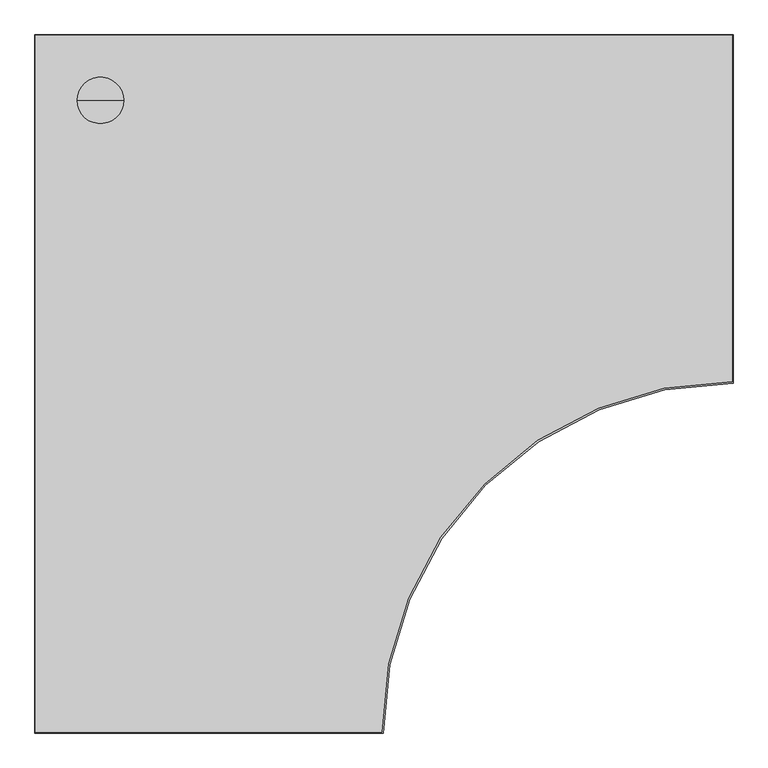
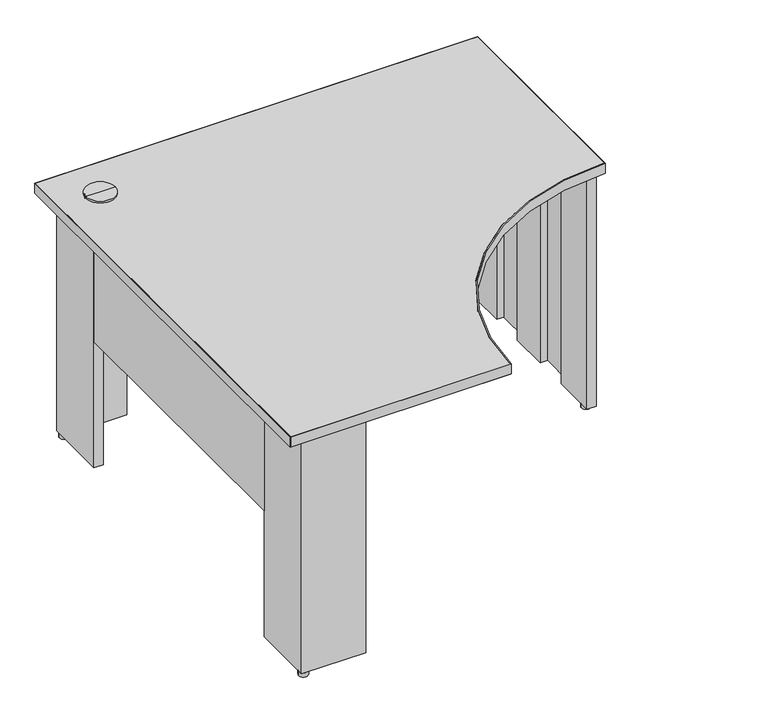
"""IFC4 building model written with IfcOpenShell, lengths in millimetres: furniture geometry, Steelcase - Kick Freestanding - Desk - Curve Corner - Partial Height Modesty Panel : 24D x 48W - Right Full End Panel/Left Clear Access Support - LPL."""

import ifcopenshell
import ifcopenshell.guid

model = None  # the IFC model being written
_history = None  # IfcOwnerHistory: only IFC2X3 demands one
_inside = {}  # id of a spatial element -> (the spatial element, [elements in it])
_under = {}  # id of a project, library or spatial element -> (it, [spatial elements below it])
_declared = {}  # id of a project -> (the project, [libraries it declares])
_typed = {}  # id of a type object -> (the type object, [elements of that type])
_made_of = {}  # id of a material, layer set ... -> (it, [elements and type objects made of it])


def new_model(schema):
    """Start an empty IFC model of exactly this schema.

    Asked for "IFC4X3", IfcOpenShell would pick the latest addendum, in which some entities
    have other attributes; the version numbers below select the first issue.
    IFC2X3 requires an IfcOwnerHistory on every rooted entity: one is made here for all.
    """
    global model, _history
    if schema == "IFC4X3":
        model = ifcopenshell.file(schema_version=(4, 3, 0, 0))
    else:
        model = ifcopenshell.file(schema=schema)
    _inside.clear()
    _under.clear()
    _declared.clear()
    _typed.clear()
    _made_of.clear()
    _history = None
    if model.schema == "IFC2X3":
        org = make("IfcOrganization", Name="unknown")
        user = make(
            "IfcPersonAndOrganization",
            ThePerson=make("IfcPerson", FamilyName="unknown"),
            TheOrganization=org,
        )
        app = make(
            "IfcApplication",
            ApplicationDeveloper=org,
            Version="unknown",
            ApplicationFullName="unknown",
            ApplicationIdentifier="unknown",
        )
        _history = make(
            "IfcOwnerHistory",
            OwningUser=user,
            OwningApplication=app,
            ChangeAction="ADDED",
            CreationDate=0,
        )
    return model


def make(cls, **values):
    """One entity of the class cls with the attributes given. An attribute that is None is left unset."""
    return model.create_entity(
        cls, **{name: value for name, value in values.items() if value is not None}
    )


def rooted(cls, **values):
    """An entity with a GlobalId (a new one), such as an element, a storey or a relation."""
    return make(cls, GlobalId=ifcopenshell.guid.new(), OwnerHistory=_history, **values)


def si_unit(unit_type, name, prefix=None):
    """IfcSIUnit, for example si_unit("LENGTHUNIT", "METRE", prefix="MILLI")."""
    return make("IfcSIUnit", UnitType=unit_type, Prefix=prefix, Name=name)


def assignment(units):
    """IfcUnitAssignment: the units of a project."""
    return None if units is None else make("IfcUnitAssignment", Units=units)


def point(xyz):
    """IfcCartesianPoint."""
    return None if xyz is None else make("IfcCartesianPoint", Coordinates=xyz)


def direction(xyz):
    """IfcDirection."""
    return None if xyz is None else make("IfcDirection", DirectionRatios=xyz)


def frame(location, z_axis=None, x_axis=None):
    """IfcAxis2Placement3D, a coordinate frame: its origin and axes. An axis left out is left unset."""
    return make(
        "IfcAxis2Placement3D",
        Location=point(location),
        Axis=direction(z_axis),
        RefDirection=direction(x_axis),
    )


def frame_2d(location, x_axis=None):
    """IfcAxis2Placement2D, a coordinate frame in the plane: its origin and x axis."""
    return make(
        "IfcAxis2Placement2D", Location=point(location), RefDirection=direction(x_axis)
    )


def origin():
    """The frame at (0, 0, 0) with its axes left unset."""
    return frame((0.0, 0.0, 0.0))


def origin_with_axes():
    """The frame at (0, 0, 0) with the z axis (0, 0, 1) and the x axis (1, 0, 0) written out."""
    return frame((0.0, 0.0, 0.0), z_axis=(0.0, 0.0, 1.0), x_axis=(1.0, 0.0, 0.0))


def place(relative_to, where):
    """IfcLocalPlacement: puts the frame where relative to a parent placement (None: the world)."""
    return make(
        "IfcLocalPlacement", PlacementRelTo=relative_to, RelativePlacement=where
    )


def context(
    kind, dimensions, precision=None, world=None, true_north=None, identifier=None
):
    """IfcGeometricRepresentationContext, for example the 3D "Model" context."""
    return make(
        "IfcGeometricRepresentationContext",
        ContextIdentifier=identifier,
        ContextType=kind,
        CoordinateSpaceDimension=dimensions,
        Precision=precision,
        WorldCoordinateSystem=world,
        TrueNorth=true_north,
    )


def project(units=None, contexts=None):
    """IfcProject with its units and contexts."""
    return rooted(
        "IfcProject",
        Name="project",
        RepresentationContexts=contexts,
        UnitsInContext=assignment(units),
    )


def spatial(cls, under=None, at=None, **own):
    """A site, building, storey or space (cls), placed at a placement, below another one or the project."""
    s = rooted(cls, ObjectPlacement=at, **own)
    if under is not None:
        _under.setdefault(under.id(), (under, []))[1].append(s)
    return s


def polyline(points):
    """IfcPolyline through the points."""
    return make("IfcPolyline", Points=[point(p) for p in points])


def circle_curve(where, radius):
    """IfcCircle in the frame where."""
    return make("IfcCircle", Position=where, Radius=radius)


def trimmed(basis, trim1, trim2, sense, master):
    """IfcTrimmedCurve: the piece of a basis curve between two trims."""
    return make(
        "IfcTrimmedCurve",
        BasisCurve=basis,
        Trim1=trim1,
        Trim2=trim2,
        SenseAgreement=sense,
        MasterRepresentation=master,
    )


def segment(curve, same_sense, transition):
    """IfcCompositeCurveSegment."""
    return make(
        "IfcCompositeCurveSegment",
        Transition=transition,
        SameSense=same_sense,
        ParentCurve=curve,
    )


def composite_curve(segments, self_intersect=None):
    """IfcCompositeCurve: segments joined end to end."""
    return make("IfcCompositeCurve", Segments=segments, SelfIntersect=self_intersect)


def outline(outer, holes=None, kind="AREA"):
    """IfcArbitraryClosedProfileDef: a profile drawn as a closed curve; with holes, ...WithVoids."""
    if holes is None:
        return make("IfcArbitraryClosedProfileDef", ProfileType=kind, OuterCurve=outer)
    return make(
        "IfcArbitraryProfileDefWithVoids",
        ProfileType=kind,
        OuterCurve=outer,
        InnerCurves=holes,
    )


def extrude(swept, where, along, depth):
    """IfcExtrudedAreaSolid: the profile swept, set in the frame where, extruded along a direction by depth."""
    return make(
        "IfcExtrudedAreaSolid",
        SweptArea=swept,
        Position=where,
        ExtrudedDirection=direction(along),
        Depth=depth,
    )


def shape(context_of_items, identifier, shape_type, items):
    """IfcShapeRepresentation: the items that make up one representation, for example the "Body"."""
    return make(
        "IfcShapeRepresentation",
        ContextOfItems=context_of_items,
        RepresentationIdentifier=identifier,
        RepresentationType=shape_type,
        Items=items,
    )


def source(mapping_origin, context_of_items, identifier, shape_type, items):
    """IfcRepresentationMap: a shape defined once, which mapped items show again and again."""
    return make(
        "IfcRepresentationMap",
        MappingOrigin=mapping_origin,
        MappedRepresentation=shape(context_of_items, identifier, shape_type, items),
    )


def transform(
    local_origin,
    x_axis=None,
    y_axis=None,
    z_axis=None,
    scale=None,
    scale2=None,
    scale3=None,
    uniform=True,
):
    """IfcCartesianTransformationOperator3D, or its non-uniform kind. x_axis, y_axis, z_axis: its Axis1, 2, 3."""
    if uniform:
        return make(
            "IfcCartesianTransformationOperator3D",
            Axis1=direction(x_axis),
            Axis2=direction(y_axis),
            LocalOrigin=point(local_origin),
            Scale=scale,
            Axis3=direction(z_axis),
        )
    return make(
        "IfcCartesianTransformationOperator3DnonUniform",
        Axis1=direction(x_axis),
        Axis2=direction(y_axis),
        LocalOrigin=point(local_origin),
        Scale=scale,
        Axis3=direction(z_axis),
        Scale2=scale2,
        Scale3=scale3,
    )


def mapped(mapping_source, mapping_target):
    """IfcMappedItem: shows the shape of a source again, moved by a transform."""
    return make(
        "IfcMappedItem", MappingSource=mapping_source, MappingTarget=mapping_target
    )


def made_of(thing, what):
    """Note that an element or type object is made of a material, layer set ...; save() writes the relation."""
    if what is not None:
        _made_of.setdefault(what.id(), (what, []))[1].append(thing)
    return thing


def element(
    cls,
    number,
    at=None,
    inside=None,
    cuts=None,
    type_object=None,
    material=None,
    context=None,
    identifier="Body",
    shape_type=None,
    held_by="IfcProductDefinitionShape",
    body=None,
    shapes=None,
    **own,
):
    """One element of the class cls, such as IfcWall. Its Tag is "e" and its number.

    at: its placement. inside: the storey or other place that contains it. cuts: it is an
    opening in that element (IfcRelVoidsElement). A single representation is given by context,
    identifier, shape_type and body (its items); several are given by shapes. held_by: the class
    of the entity that holds the representations. save() writes the other relations.
    """
    e = rooted(cls, Tag="e%d" % number, ObjectPlacement=at, **own)
    if body is not None:
        shapes = [shape(context, identifier, shape_type, body)]
    if shapes is not None:
        e.Representation = make(held_by, Representations=shapes)
    if inside is not None:
        _inside.setdefault(inside.id(), (inside, []))[1].append(e)
    if cuts is not None:
        rooted(
            "IfcRelVoidsElement", RelatingBuildingElement=cuts, RelatedOpeningElement=e
        )
    if type_object is not None:
        _typed.setdefault(type_object.id(), (type_object, []))[1].append(e)
    return made_of(e, material)


def aggregate(whole, parts):
    """IfcRelAggregates: a whole, such as a stair, and the parts it consists of."""
    return rooted("IfcRelAggregates", RelatingObject=whole, RelatedObjects=parts)


def save(model, path):
    """Write the relations noted so far, then the file.

    IfcRelAggregates (storeys below a building ...), IfcRelContainedInSpatialStructure (elements
    in a storey), IfcRelDefinesByType, IfcRelAssociatesMaterial and IfcRelDeclares: one each for
    every whole, place, type object, material and project.
    """
    for whole, parts in _under.values():
        aggregate(whole, parts)
    for where, things in _inside.values():
        rooted(
            "IfcRelContainedInSpatialStructure",
            RelatedElements=things,
            RelatingStructure=where,
        )
    for kind, things in _typed.values():
        rooted("IfcRelDefinesByType", RelatedObjects=things, RelatingType=kind)
    for what, things in _made_of.values():
        rooted("IfcRelAssociatesMaterial", RelatedObjects=things, RelatingMaterial=what)
    for by, libraries in _declared.values():
        rooted("IfcRelDeclares", RelatingContext=by, RelatedDefinitions=libraries)
    model.write(path)


def plane_surface(at):
    """IfcPlane: the flat surface through the origin of the frame at, square to its z axis."""
    return make("IfcPlane", Position=at)


def cylinder_surface(at, radius):
    """IfcCylindricalSurface: all points at the distance radius from the z axis of the frame at."""
    return make("IfcCylindricalSurface", Position=at, Radius=radius)


def advanced_brep(points, edges, surfaces, faces):
    """IfcAdvancedBrep: a solid bounded by faces that lie on surfaces and meet in shared edges.

    An edge is (start, end): straight between two places in points (the first is 0);
    or (start, end, curve); or (start, end, curve, False) where it runs against its curve.
    A face is (place in surfaces, loops), or (place, loops, False) where it looks against
    its surface's normal. A loop lists edges by number (the first is 1), with a minus sign
    where the edge is run from its end to its start. The first loop is the outer one.
    """
    corners = [point(p) for p in points]
    vertices = [make("IfcVertexPoint", VertexGeometry=c) for c in corners]
    made = []
    for start, end, *more in edges:
        made.append(
            make(
                "IfcEdgeCurve",
                EdgeStart=vertices[start],
                EdgeEnd=vertices[end],
                EdgeGeometry=more[0] if more else make("IfcPolyline", Points=[corners[start], corners[end]]),
                SameSense=more[1] if len(more) > 1 else True,
            )
        )
    hull = []
    for where, loops, *sense in faces:
        bounds = []
        for j, loop in enumerate(loops):
            ring = [make("IfcOrientedEdge", EdgeElement=made[abs(k) - 1], Orientation=k > 0) for k in loop]
            bounds.append(
                make(
                    "IfcFaceOuterBound" if j == 0 else "IfcFaceBound",
                    Bound=make("IfcEdgeLoop", EdgeList=ring),
                    Orientation=True,
                )
            )
        hull.append(make("IfcAdvancedFace", Bounds=bounds, FaceSurface=surfaces[where], SameSense=sense[0] if sense else True))
    return make("IfcAdvancedBrep", Outer=make("IfcClosedShell", CfsFaces=hull))


def furniture_949dd604(model_context):
    return source(origin(), model_context, "Body", "SolidModel", [
        extrude(outline(composite_curve([segment(trimmed(circle_curve(frame_2d((1191.2853521, -565.8064761)), 12.7), [point((1178.5853521, -565.8064761))], [point((1203.9853521, -565.8064761))], False, "CARTESIAN"), True, "CONTINUOUS"), segment(trimmed(circle_curve(frame_2d((1191.2853521, -565.8064761)), 12.7), [point((1203.9853521, -565.8064761))], [point((1178.5853521, -565.8064761))], False, "CARTESIAN"), True, "CONTINUOUS")], self_intersect=False)), origin_with_axes(), (0.0, 0.0, 1.0), 12.446),
        extrude(outline(polyline([(215.8999939, -63.5), (63.5, -63.5), (63.5, -215.8999939), (38.1, -215.8999939), (38.1, -38.1), (215.8999939, -38.1), (215.8999939, -63.5)])), frame((0.0, 0.0, 12.446), z_axis=(0.0, 0.0, 1.0), x_axis=(1.0, 0.0, 0.0)), (0.0, 0.0, 1.0), 682.498),
        extrude(outline(polyline([(1026.4393822, -63.5), (1026.4393822, -38.1), (1204.2393579, -38.1), (1204.2393579, -592.582), (1178.3313463, -592.582), (1178.3313463, -469.5444), (1198.498945, -469.5444), (1198.498945, -369.824), (1178.3313463, -369.824), (1178.3313463, -261.0866), (1198.498945, -261.0866), (1198.498945, -161.3662), (1178.3313463, -161.3662), (1178.3313463, -63.5), (1026.4393822, -63.5)])), frame((0.0, 0.0, 12.446), z_axis=(0.0, 0.0, 1.0), x_axis=(1.0, 0.0, 0.0)), (0.0, 0.0, 1.0), 682.498),
        advanced_brep(
        [(114.3, -114.3, 728.98), (154.94, -114.3, 728.98), (73.66, -114.3, 728.98), (76.1699693, -114.3, 694.944), (152.4300307, -114.3, 694.944), (114.3, -114.3, 694.944), (76.1699693, -114.3, 723.9), (152.4300307, -114.3, 723.9), (73.66, -114.3, 723.9), (154.94, -114.3, 723.9)],
        [
            (0, 1),
            (1, 2, circle_curve(frame((114.3, -114.3, 728.98), z_axis=(0.0, 0.0, 1.0), x_axis=(1.0, 0.0, 0.0)), 40.64)),
            (2, 0),
            (2, 1, circle_curve(frame((114.3, -114.3, 728.98), z_axis=(0.0, 0.0, 1.0), x_axis=(1.0, 0.0, 0.0)), 40.64)),
            (3, 4, circle_curve(frame((114.3, -114.3, 694.944), z_axis=(0.0, 0.0, -1.0), x_axis=(1.0, 0.0, 0.0)), 38.1300307)),
            (4, 5),
            (5, 3),
            (4, 3, circle_curve(frame((114.3, -114.3, 694.944), z_axis=(0.0, 0.0, -1.0), x_axis=(1.0, 0.0, 0.0)), 38.1300307)),
            (6, 7, circle_curve(frame((114.3, -114.3, 723.9), z_axis=(0.0, 0.0, -1.0), x_axis=(1.0, 0.0, 0.0)), 38.1300307)),
            (7, 4),
            (3, 6),
            (7, 6, circle_curve(frame((114.3, -114.3, 723.9), z_axis=(0.0, 0.0, -1.0), x_axis=(1.0, 0.0, 0.0)), 38.1300307)),
            (8, 9, circle_curve(frame((114.3, -114.3, 723.9), z_axis=(0.0, 0.0, -1.0), x_axis=(1.0, 0.0, 0.0)), 40.64)),
            (9, 7),
            (6, 8),
            (9, 8, circle_curve(frame((114.3, -114.3, 723.9), z_axis=(0.0, 0.0, -1.0), x_axis=(1.0, 0.0, 0.0)), 40.64)),
            (1, 9),
            (8, 2),
        ],
        [
            plane_surface(frame((114.3, -114.3, 728.98), z_axis=(0.0, 0.0, 1.0), x_axis=(1.0, 0.0, 0.0))),
            plane_surface(frame((114.3, -114.3, 694.944), z_axis=(0.0, 0.0, -1.0), x_axis=(1.0, 0.0, 0.0))),
            cylinder_surface(frame((114.3, -114.3, 728.98), z_axis=(0.0, 0.0, 1.0), x_axis=(1.0, 0.0, 0.0)), 38.1300307),
            plane_surface(frame((114.3, -114.3, 723.9), z_axis=(0.0, 0.0, -1.0), x_axis=(1.0, 0.0, 0.0))),
            cylinder_surface(frame((114.3, -114.3, 728.98), z_axis=(0.0, 0.0, 1.0), x_axis=(1.0, 0.0, 0.0)), 40.64),
        ],
        [
            (0, [[1, 2, 3]]),
            (0, [[-3, 4, -1]]),
            (1, [[5, 6, 7]]),
            (1, [[8, -7, -6]]),
            (2, [[9, 10, -5, 11]]),
            (2, [[12, -11, -8, -10]]),
            (3, [[13, 14, -9, 15]]),
            (3, [[16, -15, -12, -14]]),
            (4, [[-2, 17, -13, 18]]),
            (4, [[-4, -18, -16, -17]]),
        ],
    ),
        extrude(outline(composite_curve([segment(trimmed(circle_curve(frame_2d((50.8, -50.8)), 12.7), [point((38.1, -50.8))], [point((63.5, -50.8))], False, "CARTESIAN"), True, "CONTINUOUS"), segment(trimmed(circle_curve(frame_2d((50.8, -50.8)), 12.7), [point((63.5, -50.8))], [point((38.1, -50.8))], False, "CARTESIAN"), True, "CONTINUOUS")], self_intersect=False)), origin_with_axes(), (0.0, 0.0, 1.0), 12.446),
        extrude(outline(composite_curve([segment(trimmed(circle_curve(frame_2d((50.8, -1192.5300073)), 12.7484998), [point((38.0515002, -1192.5300073))], [point((63.5484998, -1192.5300073))], False, "CARTESIAN"), True, "CONTINUOUS"), segment(trimmed(circle_curve(frame_2d((50.8, -1192.5300073)), 12.7484998), [point((63.5484998, -1192.5300073))], [point((38.0515002, -1192.5300073))], False, "CARTESIAN"), True, "CONTINUOUS")], self_intersect=False)), origin_with_axes(), (0.0, 0.0, 1.0), 12.446),
        extrude(outline(composite_curve([segment(trimmed(circle_curve(frame_2d((1191.2853521, -50.8)), 12.7), [point((1178.5853521, -50.8))], [point((1203.9853521, -50.8))], False, "CARTESIAN"), True, "CONTINUOUS"), segment(trimmed(circle_curve(frame_2d((1191.2853521, -50.8)), 12.7), [point((1203.9853521, -50.8))], [point((1178.5853521, -50.8))], False, "CARTESIAN"), True, "CONTINUOUS")], self_intersect=False)), origin_with_axes(), (0.0, 0.0, 1.0), 12.446),
        extrude(outline(polyline([(63.5, -215.8999939), (63.5, -1027.4300194), (38.1, -1027.4300194), (38.1, -215.8999939), (63.5, -215.8999939)])), frame((0.0, 0.0, 379.476), z_axis=(0.0, 0.0, 1.0), x_axis=(1.0, 0.0, 0.0)), (0.0, 0.0, 1.0), 315.468),
        extrude(outline(polyline([(1026.4393822, -38.1), (1026.4393822, -63.5), (215.8999939, -63.5), (215.8999939, -38.1), (1026.4393822, -38.1)])), frame((0.0, 0.0, 379.476), z_axis=(0.0, 0.0, 1.0), x_axis=(1.0, 0.0, 0.0)), (0.0, 0.0, 1.0), 315.468),
        extrude(outline(polyline([(215.8999939, -1179.8300194), (215.8999939, -1205.2299952), (38.1, -1205.2299952), (38.1, -1027.4300194), (63.5, -1027.4300194), (63.5, -1179.8300194), (215.8999939, -1179.8300194)])), frame((0.0, 0.0, 12.446), z_axis=(0.0, 0.0, 1.0), x_axis=(1.0, 0.0, 0.0)), (0.0, 0.0, 1.0), 682.498),
        extrude(outline(composite_curve([segment(polyline([(0.9906, -1218.2093628), (0.9906, -0.9906), (1218.2093628, -0.9906), (1218.2093628, -605.3354109)]), True, "CONTINUOUS"), segment(trimmed(circle_curve(frame_2d((1216.9393458, -1216.9393458)), 611.6052536), [point((1218.2093628, -605.3354109))], [point((605.3354109, -1218.2093628))], True, "CARTESIAN"), True, "CONTINUOUS"), segment(polyline([(605.3354109, -1218.2093628), (0.9906, -1218.2093628)]), True, "CONTINUOUS")], self_intersect=False)), frame((0.0, 0.0, 694.944), z_axis=(0.0, 0.0, 1.0), x_axis=(1.0, 0.0, 0.0)), (0.0, 0.0, 1.0), 28.956),
        extrude(outline(composite_curve([segment(polyline([(1219.2, 0.0), (1219.2, -608.332629)]), True, "CONTINUOUS"), segment(trimmed(circle_curve(frame_2d((1217.929983, -1217.929983)), 609.598677), [point((1219.2, -608.332629))], [point((608.332629, -1219.2))], True, "CARTESIAN"), True, "CONTINUOUS"), segment(polyline([(608.332629, -1219.2), (0.0, -1219.2), (0.0, 0.0), (1219.2, 0.0)]), True, "CONTINUOUS")], self_intersect=False), holes=[composite_curve([segment(polyline([(1218.2093628, -0.9906), (0.9906, -0.9906), (0.9906, -1218.2093628), (605.3354109, -1218.2093628)]), True, "CONTINUOUS"), segment(trimmed(circle_curve(frame_2d((1216.9393458, -1216.9393458)), 611.6052536), [point((605.3354109, -1218.2093628))], [point((1218.2093628, -605.3354109))], False, "CARTESIAN"), True, "CONTINUOUS"), segment(polyline([(1218.2093628, -605.3354109), (1218.2093628, -0.9906)]), True, "CONTINUOUS")], self_intersect=False)]), frame((0.0, 0.0, 694.944), z_axis=(0.0, 0.0, 1.0), x_axis=(1.0, 0.0, 0.0)), (0.0, 0.0, 1.0), 28.956),
    ])


if __name__ == "__main__":
    model = new_model("IFC4")
    model_context = context("Model", 3, world=origin())
    ifc_project = project(units=[si_unit("LENGTHUNIT", "METRE", prefix="MILLI")], contexts=[model_context])
    site = spatial("IfcSite", under=ifc_project)
    building = spatial("IfcBuilding", under=site)
    placement = place(None, origin())
    furniture_shape = furniture_949dd604(model_context)
    element("IfcFurniture", 1, ObjectType="Steelcase - Kick Freestanding - Desk - Curve Corner - Partial Height Modesty Panel : 24D x 48W - Right Full End Panel/Left Clear Access Support - LPL", at=placement, inside=building, context=model_context, shape_type="MappedRepresentation", body=[
        mapped(furniture_shape, transform((0.0, 0.0, 0.0), x_axis=(1.0, 0.0, 0.0), y_axis=(0.0, 1.0, 0.0), z_axis=(0.0, 0.0, 1.0))),
    ])
    save(model, "model.ifc")
